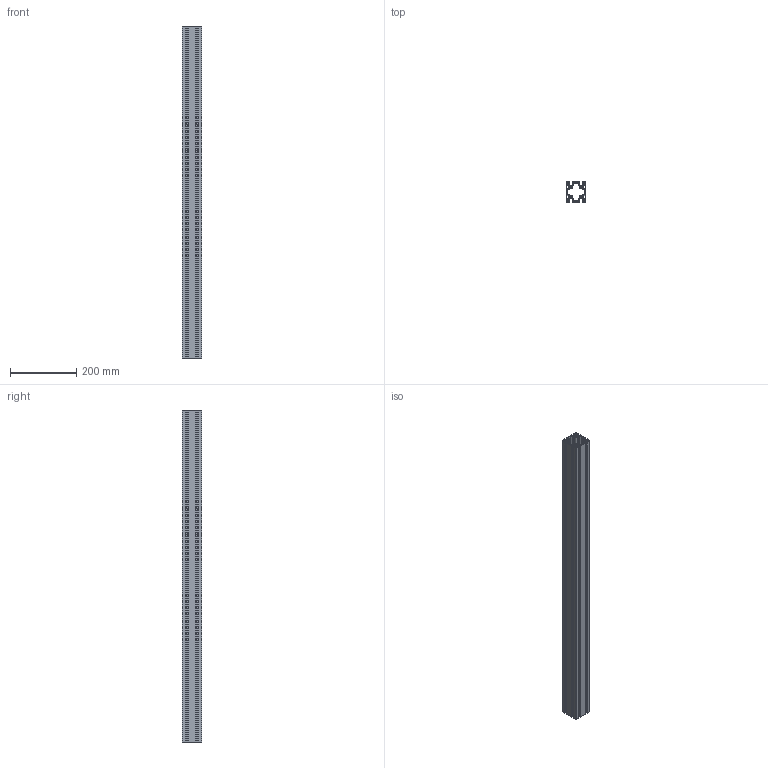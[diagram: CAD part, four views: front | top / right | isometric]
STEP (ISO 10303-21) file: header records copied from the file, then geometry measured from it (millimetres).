
FILE_DESCRIPTION((''),'2;1');
FILE_NAME('\\Dtp_2\share\iriguchi2\M6フレーム\AFS-6060-6.stp','2014-11-27T15:16:40',('AMS8'),(''),'Autodesk Inventor 2008','Autodesk Inventor 2008','');
FILE_SCHEMA(('AUTOMOTIVE_DESIGN { 1 0 10303 214 1 1 1 1 }'));
Length unit declared in the file: millimetre
Products named in the file (1): Part30
Bounding box: 60 x 60 x 1000 mm (x, y, z)
Volume: 1038957.8 mm3; surface area: 775462.4 mm2
Topology: 1 solids, 1 shells, 258 faces, 768 edges, 512 vertices
Faces by surface type: cylinder 136, plane 122
Full cylindrical faces by diameter (mm): 5 x4, 6 x4
Entity records: 8766 total; most frequent: DIRECTION 1550, CARTESIAN_POINT 1531, ORIENTED_EDGE 1520, EDGE_CURVE 760, AXIS2_PLACEMENT_3D 531, VERTEX_POINT 512, VECTOR 488, LINE 488
